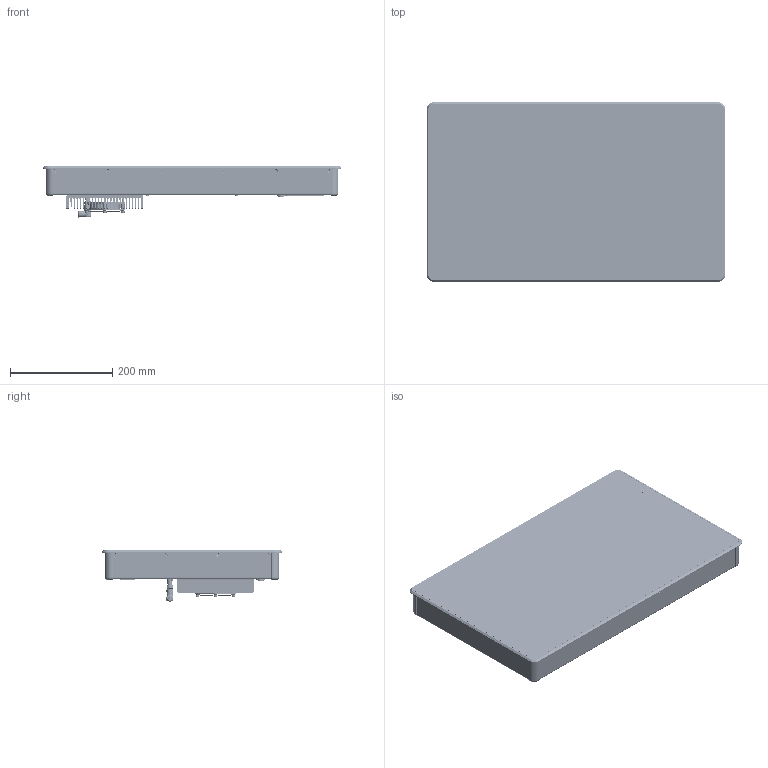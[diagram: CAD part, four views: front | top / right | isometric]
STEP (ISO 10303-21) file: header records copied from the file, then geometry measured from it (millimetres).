
FILE_DESCRIPTION(/* description */ (''),/* implementation_level */ '2;1');
FILE_NAME(/* name */ 'D:\Modelle vereinfacht\notion.D\notion.D3\778-41951-00\778-41951-00_EXTERN.stp',/* time_stamp */ '2025-05-26T11:15:34+02:00',/* author */ ('Blessing'),/* organization */ (''),/* preprocessor_version */ 'ST-DEVELOPER v18.1',/* originating_system */ 'Autodesk Inventor 2021',/* authorisation */ '');
FILE_SCHEMA (('AUTOMOTIVE_DESIGN { 1 0 10303 214 3 1 1 }'));
Products named in the file (4): Baugruppe2; 778-41951-00_IPT_000; 64-025-080_IPT_000; 778-90171_IAM_000_Shrinkwrap_1
Assembly tree (3 placements, depth 2):
  Baugruppe2
    778-41951-00_IPT_000
    64-025-080_IPT_000
    778-90171_IAM_000_Shrinkwrap_1
Bounding box: 584.4 x 352 x 100.7 mm (x, y, z)
Volume: 10971332.4 mm3; surface area: 969325.1 mm2
Topology: 12 solids, 97 shells, 9307 faces, 26568 edges, 17543 vertices
Faces by surface type: plane 5510, cylinder 2302, bspline 953, cone 430, torus 80, sphere 32
Full cylindrical faces by diameter (mm): 0.65 x16, 0.95 x32, 1 x3, 1.1 x3, 1.2 x30, 1.4 x3, 2.156 x2, 2.2 x1, 2.459 x28, 2.5 x2, 2.8 x6, 2.9 x2, 2.91 x2, 3 x26, 3.242 x18, 3.5 x34, 4 x8, 4.22 x8, 4.3 x12, 4.7 x2, 4.767 x6, 4.917 x4, 5 x3, 5.2 x1, 5.3 x1, 5.38 x6, 5.4 x14, 5.54 x24, 5.6 x1, 5.7 x1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
Entity records: 362441 total; most frequent: CARTESIAN_POINT 116461, ORIENTED_EDGE 51584, DIRECTION 45106, EDGE_CURVE 26532, LINE 18030, VECTOR 18030, VERTEX_POINT 17551, AXIS2_PLACEMENT_3D 13538
